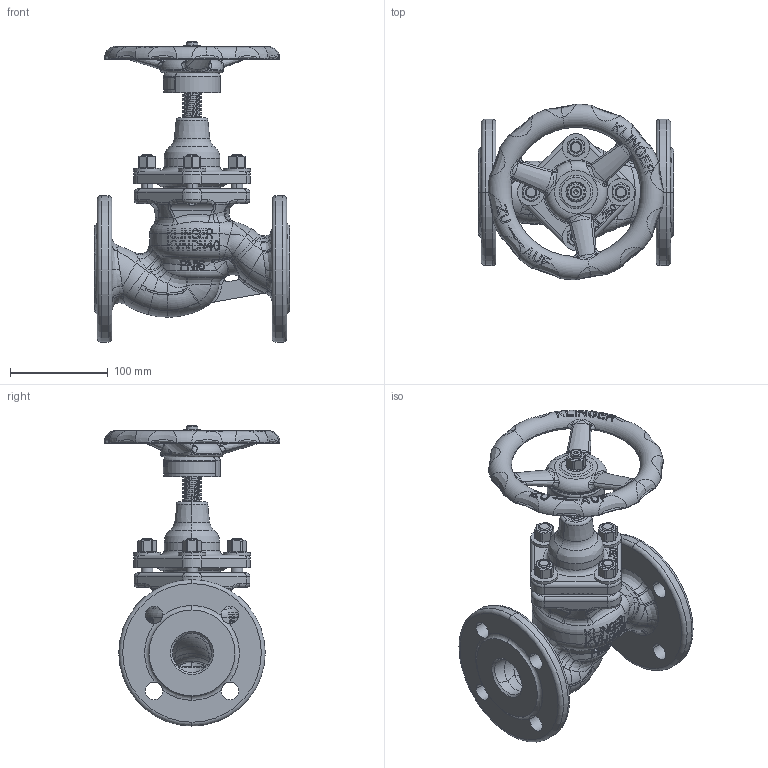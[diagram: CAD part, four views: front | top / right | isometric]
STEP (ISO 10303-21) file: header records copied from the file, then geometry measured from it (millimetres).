
FILE_DESCRIPTION((''),'2;1');
FILE_NAME('KVNFL040S-----P016DGG_SW0001','2014-09-22T',('schwaba'),('RAND'),'PRO/ENGINEER BY PARAMETRIC TECHNOLOGY CORPORATION, 2013410','PRO/ENGINEER BY PARAMETRIC TECHNOLOGY CORPORATION, 2013410','');
FILE_SCHEMA(('CONFIG_CONTROL_DESIGN'));
Products named in the file (1): KVNFL040S-----P016DGG_SW0001
Bounding box: 200 x 180 x 307.6 mm (x, y, z)
Volume: 1427862.9 mm3; surface area: 318468.2 mm2
Topology: 3 solids, 3 shells, 2853 faces, 7582 edges, 4780 vertices
Faces by surface type: plane 1439, bspline 711, cylinder 395, torus 186, cone 108, sphere 12, extrusion 2
Entity records: 210605 total; most frequent: CARTESIAN_POINT 147275, ORIENTED_EDGE 15156, DIRECTION 10310, EDGE_CURVE 7578, VERTEX_POINT 4780, AXIS2_PLACEMENT_3D 3710, B_SPLINE_CURVE_WITH_KNOTS 3122, EDGE_LOOP 2956
